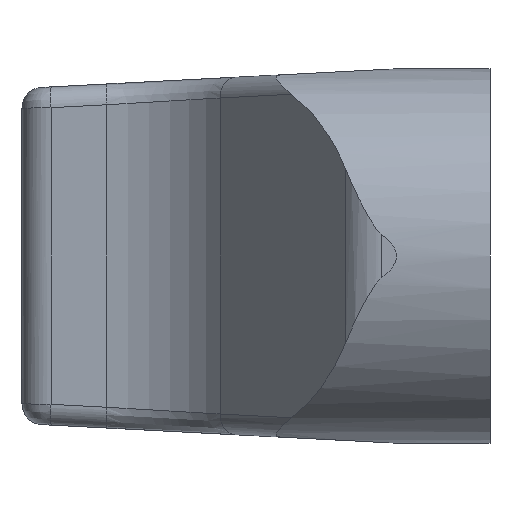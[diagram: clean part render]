
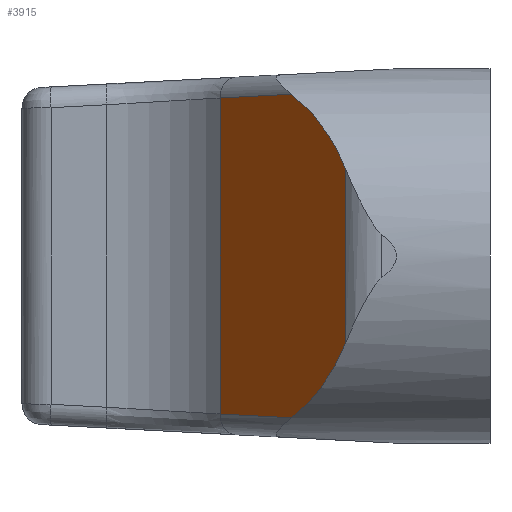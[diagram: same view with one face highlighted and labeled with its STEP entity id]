
A CAD part, left-side view. The second image highlights one B-rep face of the part: STEP entity #3915.
In plain terms, the highlighted planar face has unit normal (-0.602, 0.798, 0).
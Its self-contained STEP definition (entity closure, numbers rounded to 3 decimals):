
#3 = CARTESIAN_POINT ( 'NONE',  ( 2.992, 3.918, -6.916 ) ) ;
#23 = CARTESIAN_POINT ( 'NONE',  ( 1.021, 2.431, -4.163 ) ) ;
#44 = CARTESIAN_POINT ( 'NONE',  ( 1.812, 3.028, -5.679 ) ) ;
#182 = CARTESIAN_POINT ( 'NONE',  ( 4.47, 5.032, 7.777 ) ) ;
#296 = CARTESIAN_POINT ( 'NONE',  ( 1.021, 2.431, -4.163 ) ) ;
#313 = CARTESIAN_POINT ( 'NONE',  ( 4.47, 5.032, 7.777 ) ) ;
#369 = VERTEX_POINT ( 'NONE', #313 ) ;
#390 = DIRECTION ( 'NONE',  ( 0.602, -0.798, 0. ) ) ;
#573 = CARTESIAN_POINT ( 'NONE',  ( 2.992, 3.918, 6.916 ) ) ;
#598 = DIRECTION ( 'NONE',  ( 0.798, 0.602, 0.032 ) ) ;
#637 = ORIENTED_EDGE ( 'NONE', *, *, #2602, .F. ) ;
#744 = LINE ( 'NONE', #3031, #4723 ) ;
#906 = ORIENTED_EDGE ( 'NONE', *, *, #4500, .F. ) ;
#1074 = ORIENTED_EDGE ( 'NONE', *, *, #4390, .T. ) ;
#1144 = CARTESIAN_POINT ( 'NONE',  ( 9.037, 8.476, 7.596 ) ) ;
#1192 = LINE ( 'NONE', #2037, #4219 ) ;
#1196 = PLANE ( 'NONE',  #5151 ) ;
#1436 = ORIENTED_EDGE ( 'NONE', *, *, #1460, .F. ) ;
#1460 = EDGE_CURVE ( 'NONE', #369, #5109, #4446, .T. ) ;
#1494 = VERTEX_POINT ( 'NONE', #296 ) ;
#1495 = CARTESIAN_POINT ( 'NONE',  ( 9.013, 8.458, 7.597 ) ) ;
#1496 = FACE_OUTER_BOUND ( 'NONE', #4139, .T. ) ;
#1697 = ORIENTED_EDGE ( 'NONE', *, *, #1780, .F. ) ;
#1780 = EDGE_CURVE ( 'NONE', #2935, #369, #4733, .T. ) ;
#2037 = CARTESIAN_POINT ( 'NONE',  ( 9.037, 8.476, 9. ) ) ;
#2058 = CARTESIAN_POINT ( 'NONE',  ( 1.812, 3.028, 5.679 ) ) ;
#2094 = VERTEX_POINT ( 'NONE', #3434 ) ;
#2431 = DIRECTION ( 'NONE',  ( 0., 0., -1. ) ) ;
#2451 = DIRECTION ( 'NONE',  ( -0.798, -0.602, 0.032 ) ) ;
#2602 = EDGE_CURVE ( 'NONE', #1494, #2094, #3706, .T. ) ;
#2733 = LINE ( 'NONE', #3010, #4981 ) ;
#2791 = CARTESIAN_POINT ( 'NONE',  ( 9.037, 8.476, 9. ) ) ;
#2853 = CARTESIAN_POINT ( 'NONE',  ( 1.021, 2.431, 4.163 ) ) ;
#2935 = VERTEX_POINT ( 'NONE', #1144 ) ;
#3010 = CARTESIAN_POINT ( 'NONE',  ( 6.507, 6.568, -7.696 ) ) ;
#3031 = CARTESIAN_POINT ( 'NONE',  ( 1.021, 2.431, 9. ) ) ;
#3232 = DIRECTION ( 'NONE',  ( 0.798, 0.602, 0. ) ) ;
#3365 = CARTESIAN_POINT ( 'NONE',  ( 4.47, 5.032, -7.777 ) ) ;
#3434 = CARTESIAN_POINT ( 'NONE',  ( 4.47, 5.032, -7.777 ) ) ;
#3455 = DIRECTION ( 'NONE',  ( 0., 0., -1. ) ) ;
#3612 = VECTOR ( 'NONE', #2451, 1000. ) ;
#3706 =( BOUNDED_CURVE ( )  B_SPLINE_CURVE ( 3, ( #23, #44, #3, #3365 ),
 .UNSPECIFIED., .F., .F. ) 
 B_SPLINE_CURVE_WITH_KNOTS ( ( 4, 4 ),
 ( 0.481, 1.043 ),
 .UNSPECIFIED. ) 
 CURVE ( )  GEOMETRIC_REPRESENTATION_ITEM ( )  RATIONAL_B_SPLINE_CURVE ( ( 1., 0.974, 0.974, 1. ) ) 
 REPRESENTATION_ITEM ( '' )  );
#3785 = VERTEX_POINT ( 'NONE', #3966 ) ;
#3915 = ADVANCED_FACE ( 'NONE', ( #1496 ), #1196, .F. ) ;
#3966 = CARTESIAN_POINT ( 'NONE',  ( 9.037, 8.476, -7.596 ) ) ;
#4139 = EDGE_LOOP ( 'NONE', ( #1436, #1697, #1074, #906, #637, #5178 ) ) ;
#4219 = VECTOR ( 'NONE', #2431, 1000. ) ;
#4390 = EDGE_CURVE ( 'NONE', #2935, #3785, #1192, .T. ) ;
#4446 =( BOUNDED_CURVE ( )  B_SPLINE_CURVE ( 3, ( #182, #573, #2058, #2853 ),
 .UNSPECIFIED., .F., .F. ) 
 B_SPLINE_CURVE_WITH_KNOTS ( ( 4, 4 ),
 ( 5.24, 5.802 ),
 .UNSPECIFIED. ) 
 CURVE ( )  GEOMETRIC_REPRESENTATION_ITEM ( )  RATIONAL_B_SPLINE_CURVE ( ( 1., 0.974, 0.974, 1. ) ) 
 REPRESENTATION_ITEM ( '' )  );
#4500 = EDGE_CURVE ( 'NONE', #2094, #3785, #2733, .T. ) ;
#4575 = EDGE_CURVE ( 'NONE', #5109, #1494, #744, .T. ) ;
#4723 = VECTOR ( 'NONE', #3455, 1000. ) ;
#4733 = LINE ( 'NONE', #1495, #3612 ) ;
#4981 = VECTOR ( 'NONE', #598, 1000. ) ;
#5109 = VERTEX_POINT ( 'NONE', #5128 ) ;
#5128 = CARTESIAN_POINT ( 'NONE',  ( 1.021, 2.431, 4.163 ) ) ;
#5151 = AXIS2_PLACEMENT_3D ( 'NONE', #2791, #390, #3232 ) ;
#5178 = ORIENTED_EDGE ( 'NONE', *, *, #4575, .F. ) ;
